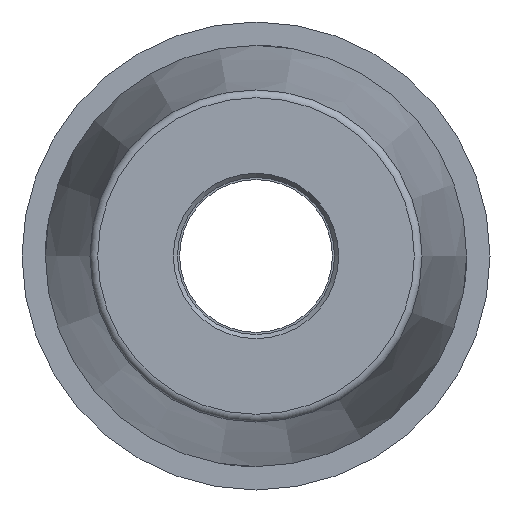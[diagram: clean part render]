
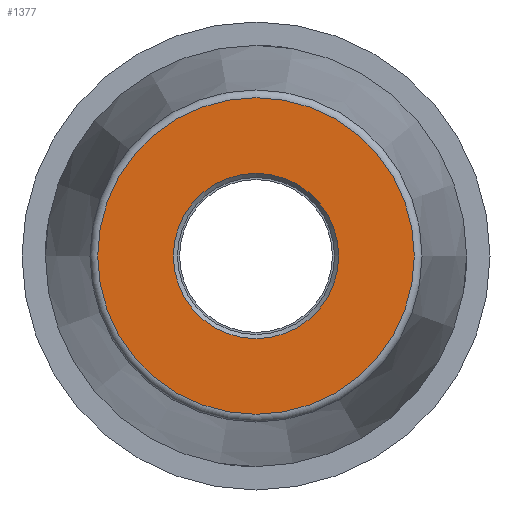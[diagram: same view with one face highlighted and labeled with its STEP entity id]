
A CAD part, left-side view. The second image highlights one B-rep face of the part: STEP entity #1377.
In plain terms, the highlighted planar face has unit normal (-1, 0, 0).
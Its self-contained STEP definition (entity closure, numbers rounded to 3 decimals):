
#37=FACE_BOUND('',#180,.T.);
#50=PLANE('',#1478);
#101=FACE_OUTER_BOUND('',#179,.T.);
#179=EDGE_LOOP('',(#953,#954));
#180=EDGE_LOOP('',(#955));
#491=CIRCLE('',#1475,9.54);
#494=CIRCLE('',#1479,18.266);
#495=CIRCLE('',#1480,18.266);
#591=VERTEX_POINT('',#2123);
#594=VERTEX_POINT('',#2131);
#595=VERTEX_POINT('',#2132);
#737=EDGE_CURVE('',#591,#591,#491,.T.);
#741=EDGE_CURVE('',#594,#595,#494,.T.);
#742=EDGE_CURVE('',#595,#594,#495,.T.);
#953=ORIENTED_EDGE('',*,*,#741,.F.);
#954=ORIENTED_EDGE('',*,*,#742,.F.);
#955=ORIENTED_EDGE('',*,*,#737,.F.);
#1377=ADVANCED_FACE('',(#101,#37),#50,.T.);
#1475=AXIS2_PLACEMENT_3D('',#2124,#1656,#1657);
#1478=AXIS2_PLACEMENT_3D('',#2130,#1663,#1664);
#1479=AXIS2_PLACEMENT_3D('',#2133,#1665,#1666);
#1480=AXIS2_PLACEMENT_3D('',#2134,#1667,#1668);
#1656=DIRECTION('center_axis',(-1.,0.,0.));
#1657=DIRECTION('ref_axis',(0.,-1.,0.));
#1663=DIRECTION('center_axis',(-1.,0.,0.));
#1664=DIRECTION('ref_axis',(0.,0.,1.));
#1665=DIRECTION('center_axis',(1.,0.,0.));
#1666=DIRECTION('ref_axis',(0.,-1.,0.));
#1667=DIRECTION('center_axis',(1.,0.,0.));
#1668=DIRECTION('ref_axis',(0.,-1.,0.));
#2123=CARTESIAN_POINT('',(-90.,9.54,0.));
#2124=CARTESIAN_POINT('Origin',(-90.,0.,0.));
#2130=CARTESIAN_POINT('Origin',(-90.,19.067,0.));
#2131=CARTESIAN_POINT('',(-90.,18.266,0.));
#2132=CARTESIAN_POINT('',(-90.,0.,18.266));
#2133=CARTESIAN_POINT('Origin',(-90.,0.,0.));
#2134=CARTESIAN_POINT('Origin',(-90.,0.,0.));
